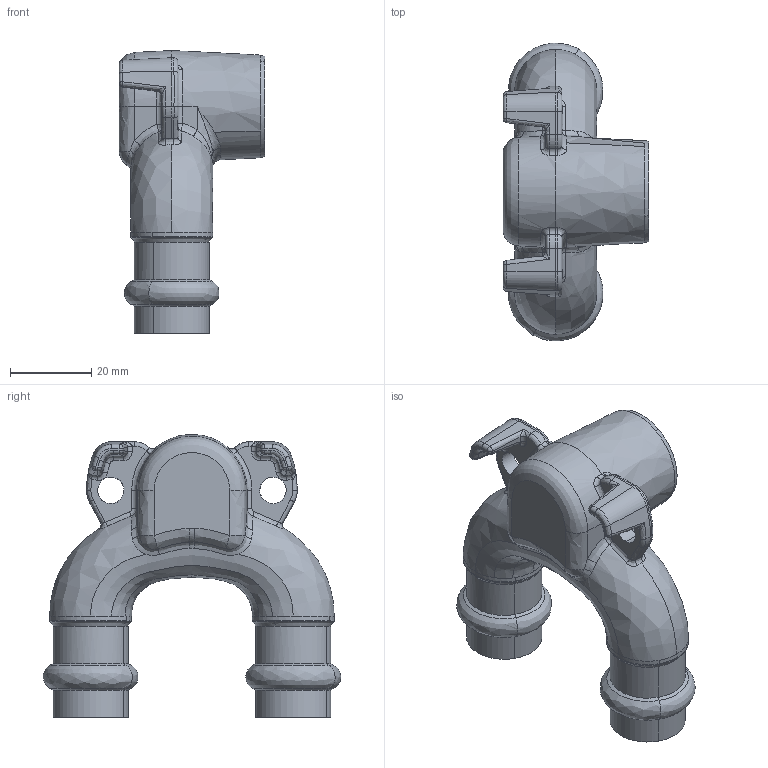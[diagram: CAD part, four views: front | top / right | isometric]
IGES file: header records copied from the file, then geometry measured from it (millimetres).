
Start section: 3D InterOp IGES (Version 25 0 1), Spatial Corp. Copyright (c) 1999-2007.
Global section: file name: pim0002057.igs; native system: Spatial Corp.; preprocessor: 3D InterOp ACIS/IGES; author: CAD-PIM; organization: TransMagic, Inc.; date: 20150316.155746; units: millimetre
Bounding box: 36 x 73.45 x 69.78 mm (x, y, z)
Volume: 44019.5 mm3; surface area: 15200 mm2
Topology: 1 solids, 1 shells, 243 faces, 618 edges, 367 vertices
Faces by surface type: bspline 243
